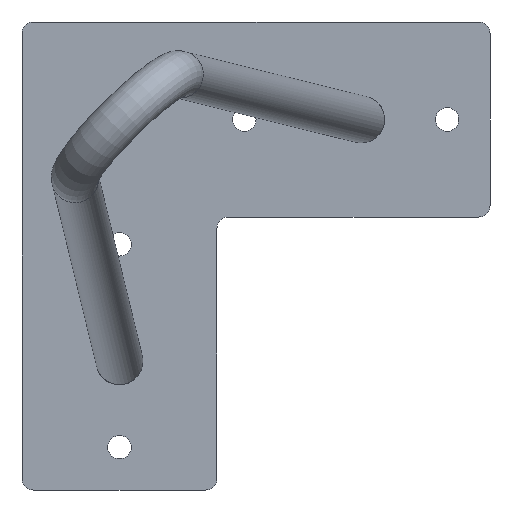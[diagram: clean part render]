
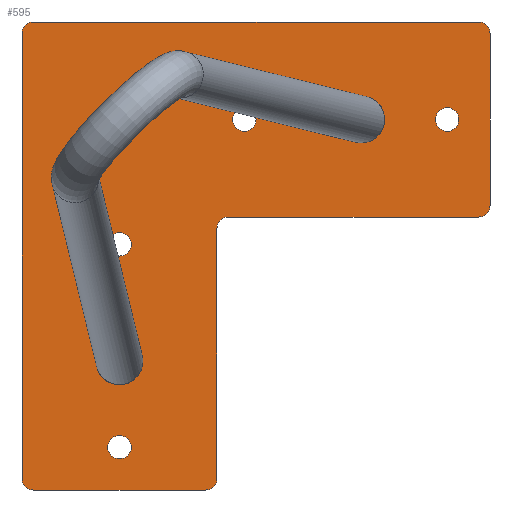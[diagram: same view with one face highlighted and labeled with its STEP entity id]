
A CAD part, front view. The second image highlights one B-rep face of the part: STEP entity #595.
In plain terms, the highlighted planar face has unit normal (0, -1, 0).
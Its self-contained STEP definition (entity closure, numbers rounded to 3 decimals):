
#30=FACE_BOUND('',#96,.T.);
#31=FACE_BOUND('',#97,.T.);
#32=FACE_BOUND('',#98,.T.);
#33=FACE_BOUND('',#99,.T.);
#34=FACE_BOUND('',#100,.T.);
#35=FACE_BOUND('',#101,.T.);
#36=FACE_BOUND('',#102,.T.);
#45=PLANE('',#663);
#62=FACE_OUTER_BOUND('',#95,.T.);
#95=EDGE_LOOP('',(#424,#425,#426,#427,#428,#429,#430,#431,#432,#433,#434,
#435));
#96=EDGE_LOOP('',(#436,#437));
#97=EDGE_LOOP('',(#438,#439));
#98=EDGE_LOOP('',(#440,#441));
#99=EDGE_LOOP('',(#442));
#100=EDGE_LOOP('',(#443));
#101=EDGE_LOOP('',(#444));
#102=EDGE_LOOP('',(#445));
#136=LINE('',#969,#171);
#139=LINE('',#975,#174);
#140=LINE('',#979,#175);
#141=LINE('',#983,#176);
#142=LINE('',#987,#177);
#143=LINE('',#991,#178);
#171=VECTOR('',#774,10.);
#174=VECTOR('',#779,10.);
#175=VECTOR('',#782,10.);
#176=VECTOR('',#785,10.);
#177=VECTOR('',#788,10.);
#178=VECTOR('',#791,10.);
#201=CIRCLE('',#642,6.);
#202=CIRCLE('',#643,6.);
#205=CIRCLE('',#648,6.);
#206=CIRCLE('',#649,6.);
#209=CIRCLE('',#654,6.);
#210=CIRCLE('',#655,6.);
#214=CIRCLE('',#661,3.);
#215=CIRCLE('',#664,3.);
#216=CIRCLE('',#665,3.);
#217=CIRCLE('',#666,3.);
#218=CIRCLE('',#667,3.);
#219=CIRCLE('',#668,3.);
#220=CIRCLE('',#669,3.);
#221=CIRCLE('',#670,3.);
#222=CIRCLE('',#671,3.);
#223=CIRCLE('',#672,3.);
#242=VERTEX_POINT('',#926);
#243=VERTEX_POINT('',#927);
#246=VERTEX_POINT('',#937);
#247=VERTEX_POINT('',#938);
#250=VERTEX_POINT('',#948);
#251=VERTEX_POINT('',#949);
#256=VERTEX_POINT('',#962);
#257=VERTEX_POINT('',#964);
#258=VERTEX_POINT('',#968);
#260=VERTEX_POINT('',#974);
#261=VERTEX_POINT('',#976);
#262=VERTEX_POINT('',#978);
#263=VERTEX_POINT('',#980);
#264=VERTEX_POINT('',#982);
#265=VERTEX_POINT('',#984);
#266=VERTEX_POINT('',#986);
#267=VERTEX_POINT('',#988);
#268=VERTEX_POINT('',#990);
#269=VERTEX_POINT('',#993);
#270=VERTEX_POINT('',#995);
#271=VERTEX_POINT('',#997);
#272=VERTEX_POINT('',#999);
#304=EDGE_CURVE('',#242,#243,#201,.T.);
#305=EDGE_CURVE('',#243,#242,#202,.T.);
#309=EDGE_CURVE('',#246,#247,#205,.T.);
#310=EDGE_CURVE('',#247,#246,#206,.T.);
#314=EDGE_CURVE('',#250,#251,#209,.T.);
#315=EDGE_CURVE('',#251,#250,#210,.T.);
#321=EDGE_CURVE('',#256,#257,#214,.T.);
#323=EDGE_CURVE('',#257,#258,#136,.T.);
#326=EDGE_CURVE('',#260,#256,#139,.T.);
#327=EDGE_CURVE('',#261,#260,#215,.T.);
#328=EDGE_CURVE('',#262,#261,#140,.T.);
#329=EDGE_CURVE('',#263,#262,#216,.T.);
#330=EDGE_CURVE('',#264,#263,#141,.T.);
#331=EDGE_CURVE('',#265,#264,#217,.T.);
#332=EDGE_CURVE('',#266,#265,#142,.T.);
#333=EDGE_CURVE('',#267,#266,#218,.T.);
#334=EDGE_CURVE('',#268,#267,#143,.T.);
#335=EDGE_CURVE('',#258,#268,#219,.T.);
#336=EDGE_CURVE('',#269,#269,#220,.T.);
#337=EDGE_CURVE('',#270,#270,#221,.T.);
#338=EDGE_CURVE('',#271,#271,#222,.T.);
#339=EDGE_CURVE('',#272,#272,#223,.T.);
#424=ORIENTED_EDGE('',*,*,#321,.F.);
#425=ORIENTED_EDGE('',*,*,#326,.F.);
#426=ORIENTED_EDGE('',*,*,#327,.F.);
#427=ORIENTED_EDGE('',*,*,#328,.F.);
#428=ORIENTED_EDGE('',*,*,#329,.F.);
#429=ORIENTED_EDGE('',*,*,#330,.F.);
#430=ORIENTED_EDGE('',*,*,#331,.F.);
#431=ORIENTED_EDGE('',*,*,#332,.F.);
#432=ORIENTED_EDGE('',*,*,#333,.F.);
#433=ORIENTED_EDGE('',*,*,#334,.F.);
#434=ORIENTED_EDGE('',*,*,#335,.F.);
#435=ORIENTED_EDGE('',*,*,#323,.F.);
#436=ORIENTED_EDGE('',*,*,#304,.T.);
#437=ORIENTED_EDGE('',*,*,#305,.T.);
#438=ORIENTED_EDGE('',*,*,#309,.T.);
#439=ORIENTED_EDGE('',*,*,#310,.T.);
#440=ORIENTED_EDGE('',*,*,#314,.T.);
#441=ORIENTED_EDGE('',*,*,#315,.T.);
#442=ORIENTED_EDGE('',*,*,#336,.F.);
#443=ORIENTED_EDGE('',*,*,#337,.F.);
#444=ORIENTED_EDGE('',*,*,#338,.F.);
#445=ORIENTED_EDGE('',*,*,#339,.F.);
#595=ADVANCED_FACE('',(#62,#30,#31,#32,#33,#34,#35,#36),#45,.F.);
#642=AXIS2_PLACEMENT_3D('',#928,#727,#728);
#643=AXIS2_PLACEMENT_3D('',#929,#729,#730);
#648=AXIS2_PLACEMENT_3D('',#939,#740,#741);
#649=AXIS2_PLACEMENT_3D('',#940,#742,#743);
#654=AXIS2_PLACEMENT_3D('',#950,#753,#754);
#655=AXIS2_PLACEMENT_3D('',#951,#755,#756);
#661=AXIS2_PLACEMENT_3D('',#965,#769,#770);
#663=AXIS2_PLACEMENT_3D('',#973,#777,#778);
#664=AXIS2_PLACEMENT_3D('',#977,#780,#781);
#665=AXIS2_PLACEMENT_3D('',#981,#783,#784);
#666=AXIS2_PLACEMENT_3D('',#985,#786,#787);
#667=AXIS2_PLACEMENT_3D('',#989,#789,#790);
#668=AXIS2_PLACEMENT_3D('',#992,#792,#793);
#669=AXIS2_PLACEMENT_3D('',#994,#794,#795);
#670=AXIS2_PLACEMENT_3D('',#996,#796,#797);
#671=AXIS2_PLACEMENT_3D('',#998,#798,#799);
#672=AXIS2_PLACEMENT_3D('',#1000,#800,#801);
#727=DIRECTION('center_axis',(0.,1.,0.));
#728=DIRECTION('ref_axis',(1.,0.,0.));
#729=DIRECTION('center_axis',(0.,1.,0.));
#730=DIRECTION('ref_axis',(1.,0.,0.));
#740=DIRECTION('center_axis',(0.,1.,0.));
#741=DIRECTION('ref_axis',(1.,0.,0.));
#742=DIRECTION('center_axis',(0.,1.,0.));
#743=DIRECTION('ref_axis',(1.,0.,0.));
#753=DIRECTION('center_axis',(0.,1.,0.));
#754=DIRECTION('ref_axis',(1.,0.,0.));
#755=DIRECTION('center_axis',(0.,1.,0.));
#756=DIRECTION('ref_axis',(1.,0.,0.));
#769=DIRECTION('center_axis',(0.,1.,0.));
#770=DIRECTION('ref_axis',(-0.707,0.,-0.707));
#774=DIRECTION('',(0.,0.,1.));
#777=DIRECTION('center_axis',(0.,1.,0.));
#778=DIRECTION('ref_axis',(0.,0.,1.));
#779=DIRECTION('',(-1.,0.,0.));
#780=DIRECTION('center_axis',(0.,1.,0.));
#781=DIRECTION('ref_axis',(0.707,0.,-0.707));
#782=DIRECTION('',(0.,0.,-1.));
#783=DIRECTION('center_axis',(0.,-1.,0.));
#784=DIRECTION('ref_axis',(-0.707,0.,0.707));
#785=DIRECTION('',(-1.,0.,0.));
#786=DIRECTION('center_axis',(0.,1.,0.));
#787=DIRECTION('ref_axis',(0.707,0.,-0.707));
#788=DIRECTION('',(0.,0.,-1.));
#789=DIRECTION('center_axis',(0.,1.,0.));
#790=DIRECTION('ref_axis',(0.707,0.,0.707));
#791=DIRECTION('',(1.,0.,0.));
#792=DIRECTION('center_axis',(0.,1.,0.));
#793=DIRECTION('ref_axis',(-0.707,0.,0.707));
#794=DIRECTION('center_axis',(0.,-1.,0.));
#795=DIRECTION('ref_axis',(1.,0.,0.));
#796=DIRECTION('center_axis',(0.,-1.,0.));
#797=DIRECTION('ref_axis',(1.,0.,0.));
#798=DIRECTION('center_axis',(0.,-1.,0.));
#799=DIRECTION('ref_axis',(1.,0.,0.));
#800=DIRECTION('center_axis',(0.,-1.,0.));
#801=DIRECTION('ref_axis',(1.,0.,0.));
#926=CARTESIAN_POINT('',(31.,0.,15.06));
#927=CARTESIAN_POINT('',(19.,0.,15.06));
#928=CARTESIAN_POINT('Origin',(25.,0.,15.06));
#929=CARTESIAN_POINT('Origin',(25.,0.,15.06));
#937=CARTESIAN_POINT('',(31.,0.,-46.94));
#938=CARTESIAN_POINT('',(19.,0.,-46.94));
#939=CARTESIAN_POINT('Origin',(25.,0.,-46.94));
#940=CARTESIAN_POINT('Origin',(25.,0.,-46.94));
#948=CARTESIAN_POINT('',(93.,0.,15.06));
#949=CARTESIAN_POINT('',(81.,0.,15.06));
#950=CARTESIAN_POINT('Origin',(87.,0.,15.06));
#951=CARTESIAN_POINT('Origin',(87.,0.,15.06));
#962=CARTESIAN_POINT('',(3.,0.,-79.94));
#964=CARTESIAN_POINT('',(0.,0.,-76.94));
#965=CARTESIAN_POINT('Origin',(3.,0.,-76.94));
#968=CARTESIAN_POINT('',(0.,0.,37.06));
#969=CARTESIAN_POINT('',(0.,0.,-79.94));
#973=CARTESIAN_POINT('Origin',(60.,0.,-19.94));
#974=CARTESIAN_POINT('',(47.,0.,-79.94));
#975=CARTESIAN_POINT('',(50.,0.,-79.94));
#976=CARTESIAN_POINT('',(50.,0.,-76.94));
#977=CARTESIAN_POINT('Origin',(47.,0.,-76.94));
#978=CARTESIAN_POINT('',(50.,0.,-12.94));
#979=CARTESIAN_POINT('',(50.,0.,-9.94));
#980=CARTESIAN_POINT('',(53.,0.,-9.94));
#981=CARTESIAN_POINT('Origin',(53.,0.,-12.94));
#982=CARTESIAN_POINT('',(117.,0.,-9.94));
#983=CARTESIAN_POINT('',(120.,0.,-9.94));
#984=CARTESIAN_POINT('',(120.,0.,-6.94));
#985=CARTESIAN_POINT('Origin',(117.,0.,-6.94));
#986=CARTESIAN_POINT('',(120.,0.,37.06));
#987=CARTESIAN_POINT('',(120.,0.,40.06));
#988=CARTESIAN_POINT('',(117.,0.,40.06));
#989=CARTESIAN_POINT('Origin',(117.,0.,37.06));
#990=CARTESIAN_POINT('',(3.,0.,40.06));
#991=CARTESIAN_POINT('',(0.,0.,40.06));
#992=CARTESIAN_POINT('Origin',(3.,0.,37.06));
#993=CARTESIAN_POINT('',(106.,0.,15.06));
#994=CARTESIAN_POINT('Origin',(109.,0.,15.06));
#995=CARTESIAN_POINT('',(54.,0.,15.06));
#996=CARTESIAN_POINT('Origin',(57.,0.,15.06));
#997=CARTESIAN_POINT('',(22.,0.,-68.94));
#998=CARTESIAN_POINT('Origin',(25.,0.,-68.94));
#999=CARTESIAN_POINT('',(22.,0.,-16.94));
#1000=CARTESIAN_POINT('Origin',(25.,0.,-16.94));
